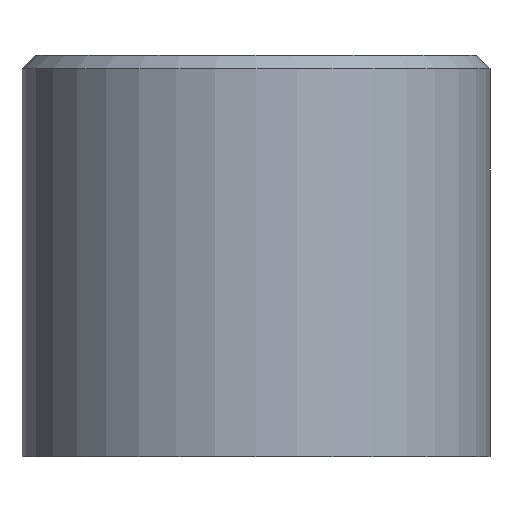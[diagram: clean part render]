
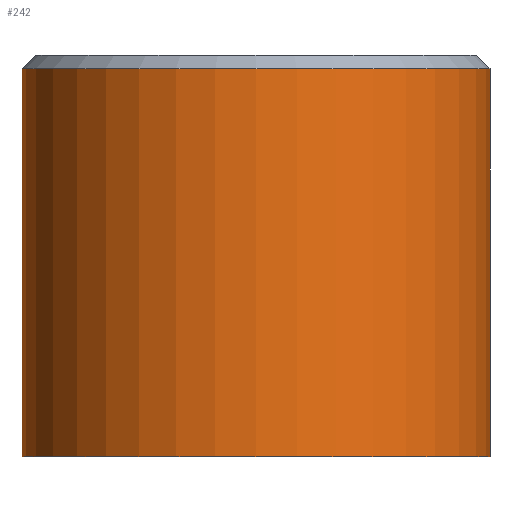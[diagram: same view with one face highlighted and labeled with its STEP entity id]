
A CAD part, front view. The second image highlights one B-rep face of the part: STEP entity #242.
In plain terms, the highlighted cylindrical face has radius 35 mm (diameter 70 mm), a full revolution.
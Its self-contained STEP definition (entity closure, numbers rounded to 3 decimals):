
#40=FACE_BOUND('',#93,.T.);
#46=LINE('',#553,#56);
#56=VECTOR('',#338,35.);
#66=CYLINDRICAL_SURFACE('',#288,35.);
#74=FACE_OUTER_BOUND('',#92,.T.);
#92=EDGE_LOOP('',(#191,#192,#193,#194,#195));
#93=EDGE_LOOP('',(#196));
#115=B_SPLINE_CURVE_WITH_KNOTS('',3,(#525,#526,#527,#528,#529,#530,#531,
#532,#533,#534,#535,#536,#537,#538,#539,#540,#541,#542),.UNSPECIFIED.,.T.,
 .F.,(4,1,1,1,1,1,1,1,1,1,1,1,1,1,1,4),(-7.298,-7.,
-6.702,-6.405,-6.107,-5.809,
-5.697,-5.511,-5.114,-4.915,
-4.617,-4.319,-4.021,-3.724,
-3.426,-3.128),.UNSPECIFIED.);
#118=CIRCLE('',#289,35.);
#119=CIRCLE('',#290,35.);
#120=CIRCLE('',#291,35.);
#132=VERTEX_POINT('',#499);
#136=VERTEX_POINT('',#548);
#137=VERTEX_POINT('',#549);
#138=VERTEX_POINT('',#552);
#155=EDGE_CURVE('',#132,#132,#115,.T.);
#158=EDGE_CURVE('',#136,#137,#118,.T.);
#159=EDGE_CURVE('',#137,#136,#119,.T.);
#160=EDGE_CURVE('',#137,#138,#46,.T.);
#161=EDGE_CURVE('',#138,#138,#120,.T.);
#191=ORIENTED_EDGE('',*,*,#158,.F.);
#192=ORIENTED_EDGE('',*,*,#159,.F.);
#193=ORIENTED_EDGE('',*,*,#160,.T.);
#194=ORIENTED_EDGE('',*,*,#161,.F.);
#195=ORIENTED_EDGE('',*,*,#160,.F.);
#196=ORIENTED_EDGE('',*,*,#155,.F.);
#242=ADVANCED_FACE('',(#74,#40),#66,.T.);
#288=AXIS2_PLACEMENT_3D('',#547,#332,#333);
#289=AXIS2_PLACEMENT_3D('',#550,#334,#335);
#290=AXIS2_PLACEMENT_3D('',#551,#336,#337);
#291=AXIS2_PLACEMENT_3D('',#554,#339,#340);
#332=DIRECTION('center_axis',(0.,0.,1.));
#333=DIRECTION('ref_axis',(1.,0.,0.));
#334=DIRECTION('center_axis',(0.,0.,1.));
#335=DIRECTION('ref_axis',(-1.,0.,0.));
#336=DIRECTION('center_axis',(0.,0.,1.));
#337=DIRECTION('ref_axis',(-1.,0.,0.));
#338=DIRECTION('',(0.,0.,-1.));
#339=DIRECTION('center_axis',(0.,0.,-1.));
#340=DIRECTION('ref_axis',(1.,0.,0.));
#499=CARTESIAN_POINT('',(0.,35.,36.6));
#525=CARTESIAN_POINT('Ctrl Pts',(0.,35.,36.6));
#526=CARTESIAN_POINT('Ctrl Pts',(-1.209,35.,36.6));
#527=CARTESIAN_POINT('Ctrl Pts',(-3.624,34.866,37.18));
#528=CARTESIAN_POINT('Ctrl Pts',(-6.508,34.415,39.581));
#529=CARTESIAN_POINT('Ctrl Pts',(-8.121,34.046,43.057));
#530=CARTESIAN_POINT('Ctrl Pts',(-8.121,34.045,46.943));
#531=CARTESIAN_POINT('Ctrl Pts',(-6.843,34.34,49.696));
#532=CARTESIAN_POINT('Ctrl Pts',(-5.186,34.621,51.518));
#533=CARTESIAN_POINT('Ctrl Pts',(-2.837,34.941,53.171));
#534=CARTESIAN_POINT('Ctrl Pts',(0.444,35.066,53.688));
#535=CARTESIAN_POINT('Ctrl Pts',(3.945,34.814,52.55));
#536=CARTESIAN_POINT('Ctrl Pts',(6.507,34.417,50.42));
#537=CARTESIAN_POINT('Ctrl Pts',(8.121,34.045,46.943));
#538=CARTESIAN_POINT('Ctrl Pts',(8.121,34.046,43.057));
#539=CARTESIAN_POINT('Ctrl Pts',(6.507,34.415,39.581));
#540=CARTESIAN_POINT('Ctrl Pts',(3.625,34.866,37.18));
#541=CARTESIAN_POINT('Ctrl Pts',(1.209,35.,36.6));
#542=CARTESIAN_POINT('Ctrl Pts',(0.,35.,36.6));
#547=CARTESIAN_POINT('Origin',(0.,0.,30.));
#548=CARTESIAN_POINT('',(35.,0.,58.));
#549=CARTESIAN_POINT('',(-35.,0.,58.));
#550=CARTESIAN_POINT('Origin',(0.,0.,58.));
#551=CARTESIAN_POINT('Origin',(0.,0.,58.));
#552=CARTESIAN_POINT('',(-35.,0.,0.));
#553=CARTESIAN_POINT('',(-35.,0.,30.));
#554=CARTESIAN_POINT('Origin',(0.,0.,0.));
